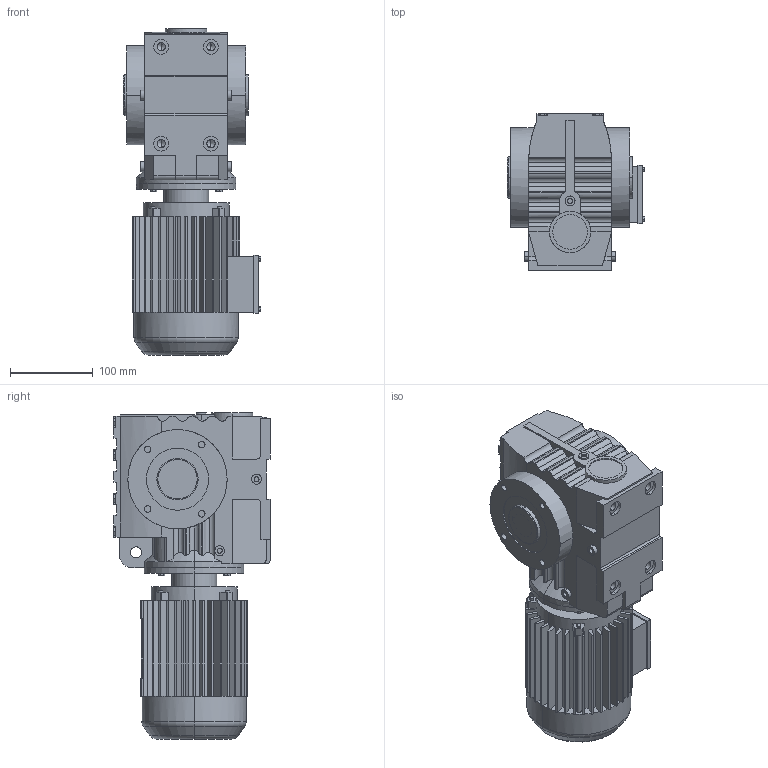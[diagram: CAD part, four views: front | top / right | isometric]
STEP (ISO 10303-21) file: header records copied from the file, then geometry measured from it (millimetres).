
FILE_DESCRIPTION(('Open CASCADE Model'),'2;1');
FILE_NAME('Open CASCADE Shape Model','2021-07-20T11:05:08',('Author'),( 'Open CASCADE'),'Open CASCADE STEP processor 6.3','Open CASCADE 6.3' ,'Unknown');
FILE_SCHEMA(('AUTOMOTIVE_DESIGN_CC2 { 1 2 10303 214 -1 1 5 4 }'));
Length unit declared in the file: millimetre
Products named in the file (4): 1_SA57-Y63S-30-A-W; SA47‵97_57.step; 萇儂_120_Y63S.step; す瑩諾陑粣S_57_30.step
Assembly tree (3 placements, depth 2):
  1_SA57-Y63S-30-A-W
    SA47‵97_57.step
    萇儂_120_Y63S.step
    す瑩諾陑粣S_57_30.step
Bounding box: 165.75 x 189 x 394 mm (x, y, z)
Volume: 5679113.4 mm3; surface area: 455022.3 mm2
Topology: 3 solids, 3 shells, 799 faces, 2102 edges, 1360 vertices
Faces by surface type: plane 521, cylinder 259, cone 15, torus 4
Entity records: 58831 total; most frequent: CARTESIAN_POINT 19360, DIRECTION 6714, ORIENTED_EDGE 4188, PCURVE 4188, DEFINITIONAL_REPRESENTATION 4188, LINE 3516, VECTOR 3516, EDGE_CURVE 2094
